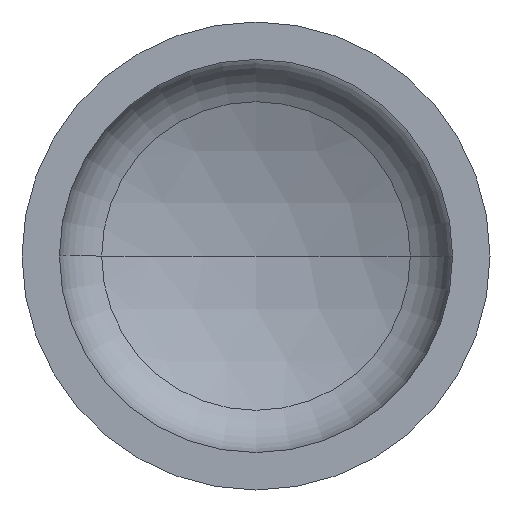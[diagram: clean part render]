
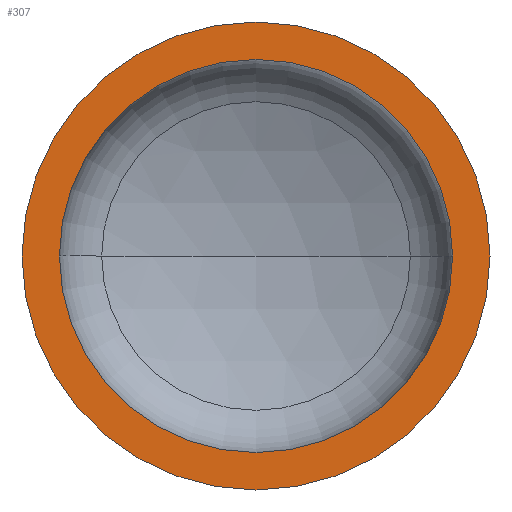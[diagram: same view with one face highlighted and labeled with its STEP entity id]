
A CAD part, front view. The second image highlights one B-rep face of the part: STEP entity #307.
In plain terms, the highlighted planar face has unit normal (0, -1, 0).
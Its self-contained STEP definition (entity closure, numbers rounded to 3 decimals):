
#6 = DIRECTION ( 'NONE',  ( 0., -1., 0. ) ) ;
#7 = CIRCLE ( 'NONE', #20, 588. ) ;
#20 = AXIS2_PLACEMENT_3D ( 'NONE', #265, #6, #283 ) ;
#23 = ORIENTED_EDGE ( 'NONE', *, *, #70, .F. ) ;
#24 = AXIS2_PLACEMENT_3D ( 'NONE', #137, #405, #118 ) ;
#25 = EDGE_LOOP ( 'NONE', ( #136, #188 ) ) ;
#56 = AXIS2_PLACEMENT_3D ( 'NONE', #200, #203, #344 ) ;
#57 = AXIS2_PLACEMENT_3D ( 'NONE', #321, #319, #318 ) ;
#69 = EDGE_CURVE ( 'NONE', #182, #75, #295, .T. ) ;
#70 = EDGE_CURVE ( 'NONE', #76, #93, #290, .T. ) ;
#72 = PLANE ( 'NONE',  #24 ) ;
#75 = VERTEX_POINT ( 'NONE', #242 ) ;
#76 = VERTEX_POINT ( 'NONE', #315 ) ;
#78 = ORIENTED_EDGE ( 'NONE', *, *, #345, .F. ) ;
#93 = VERTEX_POINT ( 'NONE', #204 ) ;
#110 = EDGE_LOOP ( 'NONE', ( #23, #78 ) ) ;
#118 = DIRECTION ( 'NONE',  ( -1., 0., 0. ) ) ;
#121 = CIRCLE ( 'NONE', #311, 700. ) ;
#136 = ORIENTED_EDGE ( 'NONE', *, *, #397, .T. ) ;
#137 = CARTESIAN_POINT ( 'NONE',  ( -700., 0., 0. ) ) ;
#145 = CARTESIAN_POINT ( 'NONE',  ( 0., 0., 0. ) ) ;
#182 = VERTEX_POINT ( 'NONE', #227 ) ;
#188 = ORIENTED_EDGE ( 'NONE', *, *, #69, .T. ) ;
#200 = CARTESIAN_POINT ( 'NONE',  ( 0., 0., 0. ) ) ;
#203 = DIRECTION ( 'NONE',  ( 0., -1., 0. ) ) ;
#204 = CARTESIAN_POINT ( 'NONE',  ( -588., 0., 0. ) ) ;
#227 = CARTESIAN_POINT ( 'NONE',  ( -700., 0., 0. ) ) ;
#242 = CARTESIAN_POINT ( 'NONE',  ( 700., 0., 0. ) ) ;
#245 = DIRECTION ( 'NONE',  ( 0., -1., 0. ) ) ;
#257 = FACE_BOUND ( 'NONE', #110, .T. ) ;
#265 = CARTESIAN_POINT ( 'NONE',  ( 0., 0., 0. ) ) ;
#283 = DIRECTION ( 'NONE',  ( 1., 0., 0. ) ) ;
#290 = CIRCLE ( 'NONE', #56, 588. ) ;
#295 = CIRCLE ( 'NONE', #57, 700. ) ;
#307 = ADVANCED_FACE ( 'NONE', ( #257, #317 ), #72, .F. ) ;
#311 = AXIS2_PLACEMENT_3D ( 'NONE', #145, #245, #398 ) ;
#315 = CARTESIAN_POINT ( 'NONE',  ( 588., 0., 0. ) ) ;
#317 = FACE_OUTER_BOUND ( 'NONE', #25, .T. ) ;
#318 = DIRECTION ( 'NONE',  ( 1., 0., 0. ) ) ;
#319 = DIRECTION ( 'NONE',  ( 0., -1., 0. ) ) ;
#321 = CARTESIAN_POINT ( 'NONE',  ( 0., 0., 0. ) ) ;
#344 = DIRECTION ( 'NONE',  ( 1., 0., 0. ) ) ;
#345 = EDGE_CURVE ( 'NONE', #93, #76, #7, .T. ) ;
#397 = EDGE_CURVE ( 'NONE', #75, #182, #121, .T. ) ;
#398 = DIRECTION ( 'NONE',  ( 1., 0., 0. ) ) ;
#405 = DIRECTION ( 'NONE',  ( 0., 1., 0. ) ) ;
